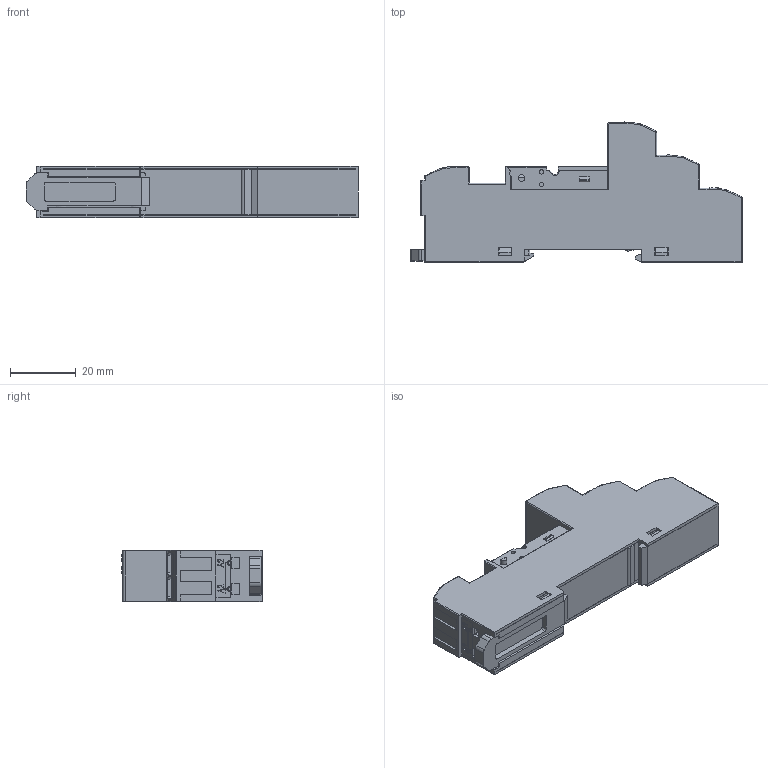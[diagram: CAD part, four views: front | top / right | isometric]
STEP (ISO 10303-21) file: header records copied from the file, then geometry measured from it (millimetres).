
FILE_DESCRIPTION (( 'STEP AP214' ), '1' );
FILE_NAME ('SRU05-ST 俋倛(陔賦凳).STEP', '2025-05-14T03:22:59', ( 'admin' ), ( '' ), 'SwSTEP 2.0', 'SolidWorks 2022', '' );
FILE_SCHEMA (( 'AUTOMOTIVE_DESIGN' ));
Length unit declared in the file: millimetre
Products named in the file (1): SRU05-ST 俋倛(陔賦凳)
Bounding box: 101.2 x 42.68 x 15.85 mm (x, y, z)
Volume: 37668.5 mm3; surface area: 25481.5 mm2
Topology: 1 solids, 3 shells, 2427 faces, 6971 edges, 4513 vertices
Faces by surface type: plane 1652, cylinder 619, torus 47, bspline 44, cone 38, sphere 27
Entity records: 99065 total; most frequent: CARTESIAN_POINT 35512, ORIENTED_EDGE 13888, DIRECTION 12006, EDGE_CURVE 6944, LINE 5270, VECTOR 5270, VERTEX_POINT 4513, AXIS2_PLACEMENT_3D 3368
